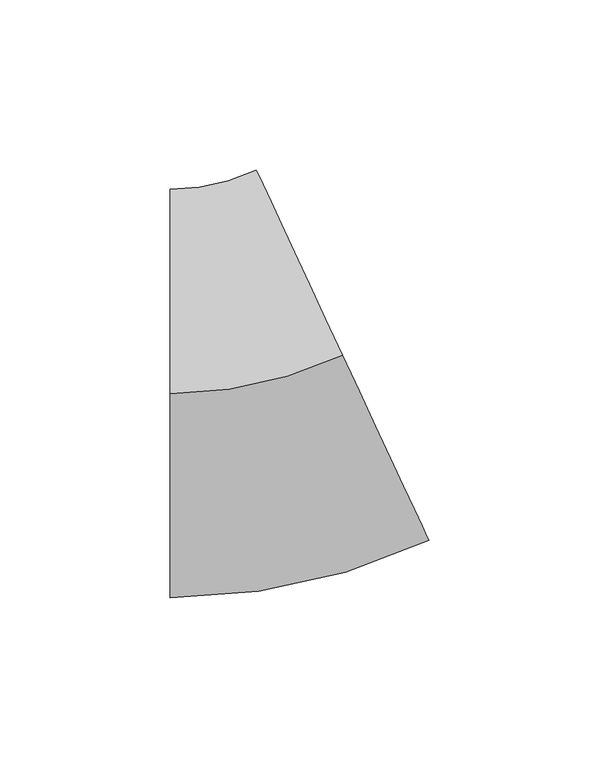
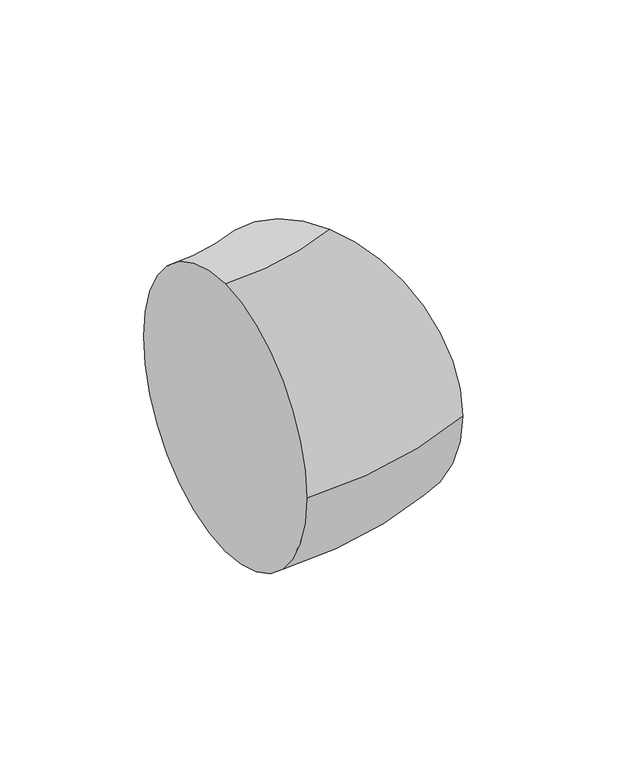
"""IFC4 building model written with IfcOpenShell, lengths in millimetres: duct fitting geometry, Семейство10 : Стандартная."""

from ifc_helpers import new_model, si_unit, point, frame, origin, place, context, project, spatial, circle_curve, ellipse_curve, trimmed, source, transform, mapped, element, save
from ifc_brep_helpers import plane_surface, revolved_surface, advanced_brep


def duct_fitting_e8799786(model_context):
    return source(origin(), model_context, "Body", "AdvancedBrep", [
        advanced_brep(
        [(-26.6033595, 0.0, 60.0), (-26.6033595, 60.0, 0.0), (-26.6033595, 0.0, -60.0), (-26.6033595, -60.0, 0.0), (24.1108319, 11.2430656, 60.0), (49.4679276, -43.1354017, 0.0), (24.1108319, 11.2430656, -60.0), (-1.2462638, 65.6215328, 0.0)],
        [
            (0, 1, circle_curve(frame((-26.6033595, 0.0, 0.0), z_axis=(-1.0, 0.0, 0.0), x_axis=(0.0, 1.0, 0.0)), 60.0)),
            (1, 2, circle_curve(frame((-26.6033595, 0.0, 0.0), z_axis=(-1.0, 0.0, 0.0), x_axis=(0.0, 1.0, 0.0)), 60.0)),
            (2, 3, circle_curve(frame((-26.6033595, 0.0, 0.0), z_axis=(-1.0, 0.0, 0.0), x_axis=(0.0, 1.0, 0.0)), 60.0)),
            (3, 0, circle_curve(frame((-26.6033595, 0.0, 0.0), z_axis=(-1.0, 0.0, 0.0), x_axis=(0.0, 1.0, 0.0)), 60.0)),
            (4, 5, circle_curve(frame((24.1108319, 11.2430656, 0.0), z_axis=(0.9063077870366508, 0.4226182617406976, 0.0), x_axis=(-0.4226182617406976, 0.9063077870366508, 0.0)), 60.0)),
            (5, 6, circle_curve(frame((24.1108319, 11.2430656, 0.0), z_axis=(0.9063077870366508, 0.4226182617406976, 0.0), x_axis=(-0.4226182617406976, 0.9063077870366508, 0.0)), 60.0)),
            (6, 7, circle_curve(frame((24.1108319, 11.2430656, 0.0), z_axis=(0.9063077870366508, 0.4226182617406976, 0.0), x_axis=(-0.4226182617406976, 0.9063077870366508, 0.0)), 60.0)),
            (7, 4, circle_curve(frame((24.1108319, 11.2430656, 0.0), z_axis=(0.9063077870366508, 0.4226182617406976, 0.0), x_axis=(-0.4226182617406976, 0.9063077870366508, 0.0)), 60.0)),
            (7, 1, circle_curve(frame((-26.6033595, 120.0, 0.0), z_axis=(0.0, 0.0, -1.0), x_axis=(0.0, -1.0, 0.0)), 60.0)),
            (0, 4, circle_curve(frame((-26.6033595, 120.0, 60.0), z_axis=(0.0, 0.0, 1.0), x_axis=(0.0, -1.0, 0.0)), 120.0)),
            (6, 2, circle_curve(frame((-26.6033595, 120.0, -60.0), z_axis=(0.0, 0.0, -1.0), x_axis=(0.0, -1.0, 0.0)), 120.0)),
            (5, 3, circle_curve(frame((-26.6033595, 120.0, 0.0), z_axis=(0.0, 0.0, -1.0), x_axis=(0.0, -1.0, 0.0)), 180.0)),
        ],
        [
            plane_surface(frame((-26.6033595, 0.0, 0.0), z_axis=(-1.0, 0.0, 0.0), x_axis=(0.0, 0.0, 1.0))),
            plane_surface(frame((24.1108319, 11.2430656, 0.0), z_axis=(0.9063077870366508, 0.4226182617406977, 0.0), x_axis=(0.0, 0.0, 1.0))),
            revolved_surface(trimmed(ellipse_curve(frame((-26.6033595, 0.0, 0.0), z_axis=(-1.0, 0.0, 0.0), x_axis=(0.0, 1.0, 0.0)), 60.0, 60.0), [point((-26.6033595, 0.0, 60.0))], [point((-26.6033595, 60.0, 0.0))], True, "CARTESIAN"), (-26.6033595, 120.0, 0.0), (0.0, 0.0, 1.0)),
            revolved_surface(trimmed(ellipse_curve(frame((-26.6033595, 0.0, 0.0), z_axis=(-1.0, 0.0, 0.0), x_axis=(0.0, 1.0, 0.0)), 60.0, 60.0), [point((-26.6033595, 60.0, 0.0))], [point((-26.6033595, 0.0, -60.0))], True, "CARTESIAN"), (-26.6033595, 120.0, 0.0), (0.0, 0.0, 1.0)),
            revolved_surface(trimmed(ellipse_curve(frame((-26.6033595, 0.0, 0.0), z_axis=(-1.0, 0.0, 0.0), x_axis=(0.0, 1.0, 0.0)), 60.0, 60.0), [point((-26.6033595, 0.0, -60.0))], [point((-26.6033595, -60.0, 0.0))], True, "CARTESIAN"), (-26.6033595, 120.0, 0.0), (0.0, 0.0, 1.0)),
            revolved_surface(trimmed(ellipse_curve(frame((-26.6033595, 0.0, 0.0), z_axis=(-1.0, 0.0, 0.0), x_axis=(0.0, 1.0, 0.0)), 60.0, 60.0), [point((-26.6033595, -60.0, 0.0))], [point((-26.6033595, 0.0, 60.0))], True, "CARTESIAN"), (-26.6033595, 120.0, 0.0), (0.0, 0.0, 1.0)),
        ],
        [
            (0, [[1, 2, 3, 4]]),
            (1, [[5, 6, 7, 8]]),
            (2, [[9, -1, 10, -8]]),
            (3, [[11, -2, -9, -7]]),
            (4, [[12, -3, -11, -6]]),
            (5, [[-10, -4, -12, -5]]),
        ],
    ),
    ])


if __name__ == "__main__":
    model = new_model("IFC4")
    model_context = context("Model", 3, world=origin())
    ifc_project = project(units=[si_unit("LENGTHUNIT", "METRE", prefix="MILLI")], contexts=[model_context])
    site = spatial("IfcSite", under=ifc_project)
    building = spatial("IfcBuilding", under=site)
    placement = place(None, origin())
    duct_fitting_shape = duct_fitting_e8799786(model_context)
    element("IfcDuctFitting", 1, ObjectType="Семейство10 : Стандартная", at=placement, inside=building, context=model_context, shape_type="MappedRepresentation", body=[
        mapped(duct_fitting_shape, transform((0.0, 0.0, 0.0), x_axis=(1.0, 0.0, 0.0), y_axis=(0.0, 1.0, 0.0), z_axis=(0.0, 0.0, 1.0))),
    ])
    save(model, "model.ifc")
